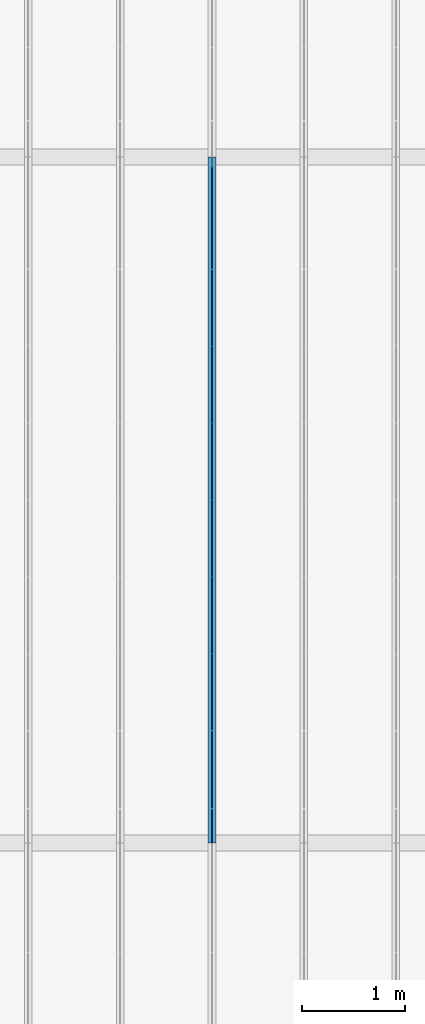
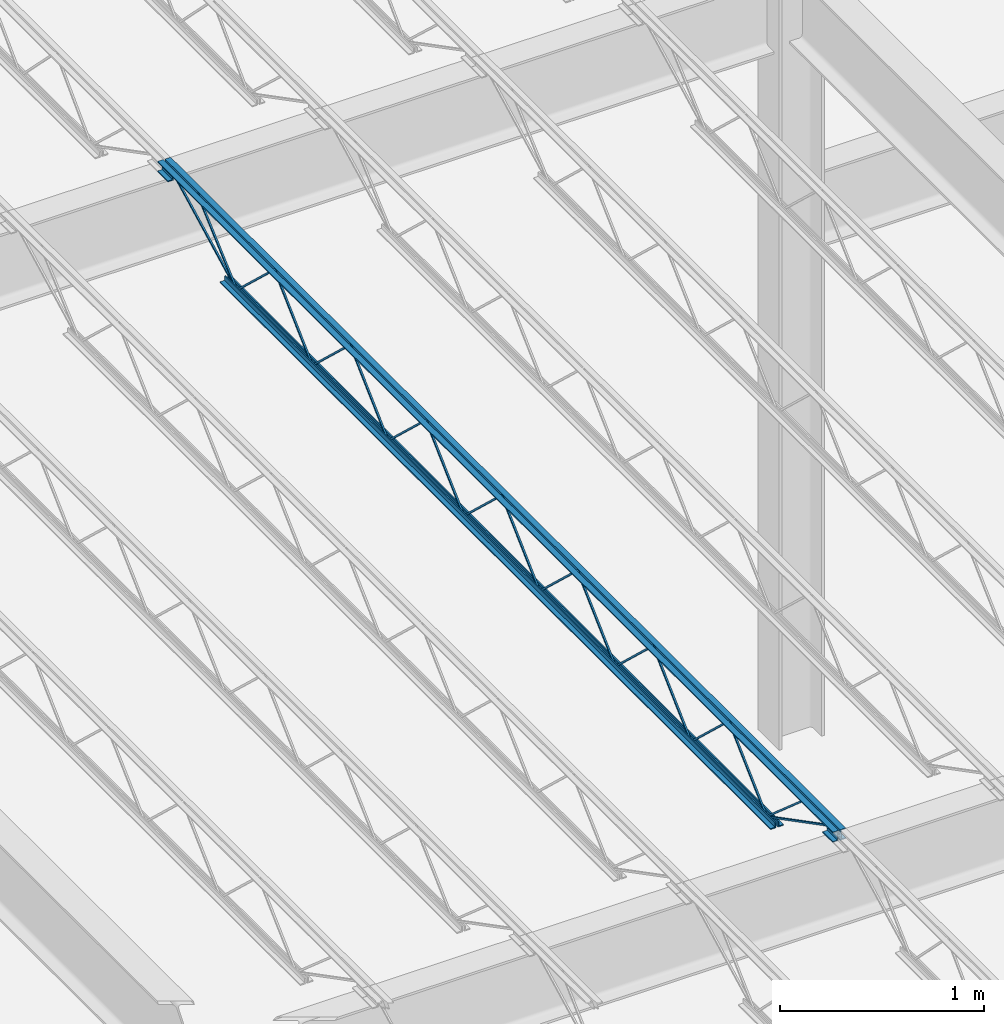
# One storey, part 51 of 119: 1 beam.
"""IFC2X3 building model written with IfcOpenShell, lengths in metres."""

from ifc_helpers import new_model, entity, si_unit, converted_unit, frame, origin, place, context, project, spatial, face_set, surface_model, element, save


model = new_model("IFC2X3")

# Units and contexts
model_context = context("Model", 3, precision=1e-09, world=origin())
plan_context = context("Plan", 3, precision=1e-09, world=origin())
ifc_project = project(units=[si_unit("LENGTHUNIT", "METRE"), si_unit("AREAUNIT", "SQUARE_METRE"), si_unit("VOLUMEUNIT", "CUBIC_METRE"), converted_unit("PLANEANGLEUNIT", "DEGREE", entity("IfcRatioMeasure", 0.01745329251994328), si_unit("PLANEANGLEUNIT", "RADIAN"), dimensions=[0, 0, 0, 0, 0, 0, 0]), si_unit("TIMEUNIT", "SECOND")], contexts=[model_context, plan_context])

# Site, building, storey
site_placement = place(None, origin())
site = spatial("IfcSite", under=ifc_project, at=site_placement, Name="Default", CompositionType="ELEMENT")
building_placement = place(site_placement, origin())
building = spatial("IfcBuilding", under=site, at=building_placement, CompositionType="ELEMENT")
storey_placement = place(building_placement, frame((0.0, 0.0, 4.570000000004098)))
storey = spatial("IfcBuildingStorey", under=building, at=storey_placement, Name="Second Floor", CompositionType="ELEMENT", Elevation=4.570000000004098)

# Beam
beam_placement = place(storey_placement, frame((-37.14175000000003, 28.38050000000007, 4.323999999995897)))
element("IfcBeam", 1, at=beam_placement, inside=storey, Name="M_K-Series Bar Joist-Rod Web:14K1:14K1", ObjectType="M_K-Series Bar Joist-Rod Web:14K1", context=model_context, shape_type="SurfaceModel", body=[
    surface_model("IfcFaceBasedSurfaceModel", [(0.04149999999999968, 4.429857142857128, 0.01110000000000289), (0.03200000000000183, 4.429857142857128, 0.01110000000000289), (0.03200000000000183, 4.429857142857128, 0.001600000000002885), (0.04149999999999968, 4.429857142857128, 0.001600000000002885), (0.03200000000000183, 4.431150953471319, 0.01110000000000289), (0.04149999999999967, 4.431150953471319, 0.01110000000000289), (0.03200000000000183, 4.434913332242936, 0.001600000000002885), (0.03200000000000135, 4.800349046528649, 0.3449000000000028), (0.03200000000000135, 4.802936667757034, 0.3449000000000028), (0.0320000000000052, 5.168372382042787, 0.001600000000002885), (0.03200000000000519, 5.173428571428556, 0.001600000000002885), (0.03200000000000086, 5.173428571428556, 0.01110000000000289), (0.03200000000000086, 5.172134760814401, 0.01110000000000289), (0.03200000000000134, 4.806699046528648, 0.3544000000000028), (0.03200000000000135, 4.796586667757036, 0.3544000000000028), (0.04149999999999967, 4.434913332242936, 0.001600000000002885), (0.04149999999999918, 4.800349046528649, 0.3449000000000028), (0.04149999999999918, 4.802936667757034, 0.3449000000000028), (0.04149999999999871, 5.168372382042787, 0.001600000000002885), (0.04149999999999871, 5.173428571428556, 0.001600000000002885), (0.04150000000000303, 5.173428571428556, 0.01110000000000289), (0.04150000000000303, 5.172134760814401, 0.01110000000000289), (0.04149999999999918, 4.806699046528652, 0.3544000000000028), (0.0414999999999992, 4.796586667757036, 0.3544000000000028), (0.04150000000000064, 3.686285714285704, 0.01110000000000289), (0.0320000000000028, 3.686285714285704, 0.01110000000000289), (0.0320000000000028, 3.686285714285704, 0.001600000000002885), (0.04150000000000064, 3.686285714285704, 0.001600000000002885), (0.0320000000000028, 3.687579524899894, 0.01110000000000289), (0.04150000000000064, 3.687579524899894, 0.01110000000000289), (0.0320000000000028, 3.691341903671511, 0.001600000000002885), (0.03200000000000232, 4.056777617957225, 0.3449000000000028), (0.03200000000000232, 4.059365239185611, 0.3449000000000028), (0.03200000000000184, 4.424800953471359, 0.001600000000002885), (0.03200000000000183, 4.429857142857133, 0.001600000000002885), (0.03200000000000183, 4.429857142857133, 0.01110000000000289), (0.03200000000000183, 4.428563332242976, 0.01110000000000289), (0.03200000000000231, 4.063127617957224, 0.3544000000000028), (0.03200000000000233, 4.053015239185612, 0.3544000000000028), (0.04150000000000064, 3.691341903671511, 0.001600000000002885), (0.04150000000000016, 4.056777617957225, 0.3449000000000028), (0.04150000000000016, 4.059365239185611, 0.3449000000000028), (0.04149999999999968, 4.424800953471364, 0.001600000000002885), (0.04149999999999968, 4.429857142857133, 0.001600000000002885), (0.04149999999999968, 4.429857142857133, 0.01110000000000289), (0.04149999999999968, 4.428563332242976, 0.01110000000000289), (0.04150000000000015, 4.063127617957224, 0.3544000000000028), (0.04150000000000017, 4.053015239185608, 0.3544000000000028), (0.04150000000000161, 2.942714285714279, 0.01110000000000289), (0.03200000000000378, 2.942714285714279, 0.01110000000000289), (0.03200000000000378, 2.942714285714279, 0.001600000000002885), (0.04150000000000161, 2.942714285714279, 0.001600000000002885), (0.03200000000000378, 2.94400809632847, 0.01110000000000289), (0.04150000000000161, 2.94400809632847, 0.01110000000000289), (0.03200000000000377, 2.947770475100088, 0.001600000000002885), (0.03200000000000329, 3.313206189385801, 0.3449000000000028), (0.03200000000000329, 3.315793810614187, 0.3449000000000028), (0.03200000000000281, 3.681229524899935, 0.001600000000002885), (0.0320000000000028, 3.686285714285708, 0.001600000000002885), (0.0320000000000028, 3.686285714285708, 0.01110000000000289), (0.0320000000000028, 3.684991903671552, 0.01110000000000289), (0.03200000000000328, 3.319556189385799, 0.3544000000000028), (0.0320000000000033, 3.309443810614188, 0.3544000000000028), (0.04150000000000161, 2.947770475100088, 0.001600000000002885), (0.04150000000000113, 3.313206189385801, 0.3449000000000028), (0.04150000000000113, 3.315793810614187, 0.3449000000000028), (0.04150000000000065, 3.681229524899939, 0.001600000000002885), (0.04150000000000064, 3.686285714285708, 0.001600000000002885), (0.04150000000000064, 3.686285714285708, 0.01110000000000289), (0.04150000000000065, 3.684991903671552, 0.01110000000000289), (0.04150000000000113, 3.319556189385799, 0.3544000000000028), (0.04150000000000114, 3.309443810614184, 0.3544000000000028), (0.04150000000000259, 2.199142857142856, 0.01110000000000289), (0.03200000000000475, 2.199142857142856, 0.01110000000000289), (0.03200000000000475, 2.199142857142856, 0.001600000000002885), (0.04150000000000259, 2.199142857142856, 0.001600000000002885), (0.03200000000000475, 2.200436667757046, 0.01110000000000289), (0.04150000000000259, 2.200436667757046, 0.01110000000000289), (0.03200000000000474, 2.204199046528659, 0.001600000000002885), (0.03200000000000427, 2.569634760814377, 0.3449000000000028), (0.03200000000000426, 2.572222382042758, 0.3449000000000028), (0.03200000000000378, 2.93765809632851, 0.001600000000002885), (0.03200000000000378, 2.942714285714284, 0.01110000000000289), (0.03200000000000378, 2.941420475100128, 0.01110000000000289), (0.03200000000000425, 2.575984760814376, 0.3544000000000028), (0.03200000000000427, 2.565872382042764, 0.3544000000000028), (0.04150000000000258, 2.204199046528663, 0.001600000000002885), (0.04150000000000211, 2.569634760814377, 0.3449000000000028), (0.0415000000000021, 2.572222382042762, 0.3449000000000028), (0.04150000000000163, 2.937658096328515, 0.001600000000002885), (0.04150000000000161, 2.942714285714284, 0.001600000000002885), (0.04150000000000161, 2.941420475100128, 0.01110000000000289), (0.0415000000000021, 2.575984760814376, 0.3544000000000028), (0.04150000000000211, 2.565872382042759, 0.3544000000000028), (0.04149999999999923, 1.455571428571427, 0.01110000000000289), (0.03200000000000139, 1.455571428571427, 0.01110000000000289), (0.03200000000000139, 1.455571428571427, 0.001600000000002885), (0.04149999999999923, 1.455571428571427, 0.001600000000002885), (0.03200000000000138, 1.456865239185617, 0.01110000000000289), (0.04149999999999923, 1.456865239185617, 0.01110000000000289), (0.03200000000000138, 1.460627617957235, 0.001600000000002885), (0.03200000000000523, 1.826063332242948, 0.3449000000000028), (0.03200000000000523, 1.828650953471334, 0.3449000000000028), (0.03200000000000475, 2.194086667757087, 0.001600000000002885), (0.03200000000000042, 2.199142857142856, 0.01110000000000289), (0.03200000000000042, 2.197849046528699, 0.01110000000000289), (0.0320000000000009, 1.832413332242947, 0.3544000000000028), (0.03200000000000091, 1.822300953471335, 0.3544000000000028), (0.04149999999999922, 1.460627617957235, 0.001600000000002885), (0.04149999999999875, 1.826063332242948, 0.3449000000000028), (0.04149999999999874, 1.828650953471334, 0.3449000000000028), (0.04149999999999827, 2.194086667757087, 0.001600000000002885), (0.04149999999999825, 2.199142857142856, 0.001600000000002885), (0.04150000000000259, 2.197849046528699, 0.01110000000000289), (0.04150000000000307, 1.832413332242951, 0.3544000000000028), (0.04150000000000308, 1.822300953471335, 0.3544000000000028), (0.04150000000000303, 5.173428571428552, 0.01109999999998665), (0.03200000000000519, 5.173428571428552, 0.01109999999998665), (0.03200000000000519, 5.173428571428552, 0.001599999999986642), (0.04150000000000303, 5.173428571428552, 0.001599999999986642), (0.03200000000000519, 5.174722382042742, 0.01109999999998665), (0.04150000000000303, 5.174722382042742, 0.01109999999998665), (0.03200000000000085, 5.17848476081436, 0.001599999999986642), (0.03200000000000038, 5.543920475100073, 0.3448999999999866), (0.03200000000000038, 5.546508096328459, 0.3448999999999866), (0.0319999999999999, 5.911943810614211, 0.001599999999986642), (0.03200000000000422, 5.91699999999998, 0.001599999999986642), (0.03199999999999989, 5.91699999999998, 0.01109999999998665), (0.03199999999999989, 5.915706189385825, 0.01109999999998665), (0.03200000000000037, 5.550270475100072, 0.3543999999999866), (0.03200000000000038, 5.540158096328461, 0.3543999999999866), (0.0414999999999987, 5.17848476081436, 0.001599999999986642), (0.04150000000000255, 5.543920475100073, 0.3448999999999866), (0.04150000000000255, 5.546508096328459, 0.3448999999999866), (0.04150000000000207, 5.911943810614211, 0.001599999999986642), (0.04150000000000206, 5.91699999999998, 0.001599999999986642), (0.04150000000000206, 5.91699999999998, 0.01109999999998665), (0.04150000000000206, 5.915706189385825, 0.01109999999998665), (0.04150000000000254, 5.550270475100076, 0.3543999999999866), (0.04150000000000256, 5.540158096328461, 0.3543999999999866), (0.0415000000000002, 0.7120000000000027, 0.01110000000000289), (0.03200000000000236, 0.7120000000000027, 0.01110000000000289), (0.03200000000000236, 0.7120000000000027, 0.001600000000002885), (0.0415000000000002, 0.7120000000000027, 0.001600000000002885), (0.03200000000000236, 0.7132938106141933, 0.01110000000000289), (0.0415000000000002, 0.7132938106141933, 0.01110000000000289), (0.03200000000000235, 0.7170561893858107, 0.001600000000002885), (0.03200000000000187, 1.082491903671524, 0.3449000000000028), (0.03200000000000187, 1.08507952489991, 0.3449000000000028), (0.0320000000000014, 1.450515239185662, 0.001600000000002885), (0.03200000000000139, 1.455571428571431, 0.001600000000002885), (0.03200000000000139, 1.455571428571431, 0.01110000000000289), (0.03200000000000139, 1.454277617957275, 0.01110000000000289), (0.03200000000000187, 1.088841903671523, 0.3544000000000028), (0.03200000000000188, 1.078729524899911, 0.3544000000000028), (0.0415000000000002, 0.7170561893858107, 0.001600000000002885), (0.04149999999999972, 1.082491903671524, 0.3449000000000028), (0.04149999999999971, 1.08507952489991, 0.3449000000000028), (0.04149999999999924, 1.450515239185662, 0.001600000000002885), (0.04149999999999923, 1.455571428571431, 0.001600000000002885), (0.04149999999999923, 1.455571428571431, 0.01110000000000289), (0.04149999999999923, 1.454277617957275, 0.01110000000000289), (0.04149999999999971, 1.088841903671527, 0.3544000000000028), (0.04149999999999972, 1.078729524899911, 0.3544000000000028), (0.03200000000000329, 6.629, 0.3559999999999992), (0.0, 6.629, 0.3559999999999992), (0.0, 6.629, 0.3494999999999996), (0.02550000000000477, 6.629, 0.3494999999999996), (0.02550000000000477, 6.629, 0.3239999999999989), (0.03200000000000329, 6.629, 0.3239999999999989), (0.04150000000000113, 6.629, 0.3559999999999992), (0.04150000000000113, 6.629, 0.3239999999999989), (0.04800000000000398, 6.629, 0.3239999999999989), (0.04800000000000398, 6.629, 0.3494999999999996), (0.07350000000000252, 6.629, 0.3494999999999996), (0.07350000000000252, 6.629, 0.3559999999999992), (0.03200000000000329, 0.0, 0.3559999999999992), (0.0, 0.0, 0.3559999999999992), (0.0, 0.0, 0.3494999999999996), (0.02550000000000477, 0.0, 0.3494999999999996), (0.02550000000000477, 0.0, 0.3239999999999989), (0.03200000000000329, 0.0, 0.3239999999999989), (0.04150000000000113, 0.0, 0.3559999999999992), (0.04150000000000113, 0.0, 0.3239999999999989), (0.04800000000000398, 0.0, 0.3239999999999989), (0.04800000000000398, 0.0, 0.3494999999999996), (0.07350000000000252, 0.0, 0.3494999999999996), (0.07350000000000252, 0.0, 0.3559999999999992), (0.04150000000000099, 0.09999999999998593, 0.2924999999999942), (0.07350000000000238, 0.09999999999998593, 0.2924999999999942), (0.07350000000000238, 0.09999999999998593, 0.2989999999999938), (0.04799999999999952, 0.09999999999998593, 0.2989999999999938), (0.04799999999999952, 0.09999999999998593, 0.3239999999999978), (0.04150000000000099, 0.09999999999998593, 0.3239999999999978), (0.0, 0.09999999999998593, 0.2924999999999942), (0.03200000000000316, 0.09999999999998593, 0.2924999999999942), (0.03200000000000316, 0.09999999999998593, 0.3239999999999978), (0.02550000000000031, 0.09999999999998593, 0.3239999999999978), (0.02550000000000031, 0.09999999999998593, 0.2989999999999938), (0.0, 0.09999999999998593, 0.2989999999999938), (0.04150000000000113, 0.0, 0.2924999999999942), (0.07350000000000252, 0.0, 0.2924999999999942), (0.07350000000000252, 0.0, 0.2989999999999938), (0.04799999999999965, 0.0, 0.2989999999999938), (0.04799999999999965, 0.0, 0.3239999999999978), (0.04150000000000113, 0.0, 0.3239999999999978), (0.0, 0.0, 0.2924999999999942), (0.03200000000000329, 0.0, 0.2924999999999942), (0.03200000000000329, 0.0, 0.3239999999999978), (0.02550000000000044, 0.0, 0.3239999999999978), (0.02550000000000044, 0.0, 0.2989999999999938), (0.0, 0.0, 0.2989999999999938), (0.03200000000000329, 6.629, 0.2924999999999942), (0.03200000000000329, 6.629, 0.3239999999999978), (0.02550000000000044, 6.629, 0.3239999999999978), (0.02550000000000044, 6.629, 0.2989999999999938), (0.0, 6.629, 0.2989999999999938), (0.0, 6.629, 0.2924999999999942), (0.04150000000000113, 6.629, 0.2924999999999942), (0.07350000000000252, 6.629, 0.2924999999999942), (0.07350000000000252, 6.629, 0.2989999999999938), (0.04799999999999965, 6.629, 0.2989999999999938), (0.04799999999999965, 6.629, 0.3239999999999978), (0.04150000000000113, 6.629, 0.3239999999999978), (0.03200000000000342, 6.529000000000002, 0.2924999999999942), (0.03200000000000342, 6.529000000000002, 0.3239999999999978), (0.02550000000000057, 6.529000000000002, 0.3239999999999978), (0.02550000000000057, 6.529000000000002, 0.2989999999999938), (0.0, 6.529000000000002, 0.2989999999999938), (0.0, 6.529000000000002, 0.2924999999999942), (0.04150000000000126, 6.529000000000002, 0.2924999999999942), (0.07350000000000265, 6.529000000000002, 0.2924999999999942), (0.07350000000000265, 6.529000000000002, 0.2989999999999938), (0.04799999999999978, 6.529000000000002, 0.2989999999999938), (0.04799999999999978, 6.529000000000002, 0.3239999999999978), (0.04150000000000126, 6.529000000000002, 0.3239999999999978), (0.0320000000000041, 6.017000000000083, 0.0), (0.0320000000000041, 6.017000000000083, 0.03199999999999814), (0.02550000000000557, 6.017000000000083, 0.03199999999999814), (0.02550000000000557, 6.017000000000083, 0.006499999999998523), (0.0, 6.017000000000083, 0.006499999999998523), (0.0, 6.017000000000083, 0.0), (0.04150000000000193, 6.017000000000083, 0.0), (0.07350000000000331, 6.017000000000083, 0.0), (0.07350000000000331, 6.017000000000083, 0.006499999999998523), (0.04800000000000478, 6.017000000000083, 0.006499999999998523), (0.04800000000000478, 6.017000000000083, 0.03199999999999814), (0.04150000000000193, 6.017000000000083, 0.03199999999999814), (0.03200000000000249, 0.6120000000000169, 0.0), (0.03200000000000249, 0.6120000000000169, 0.03199999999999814), (0.02550000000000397, 0.6120000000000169, 0.03199999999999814), (0.02550000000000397, 0.6120000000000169, 0.006499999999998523), (0.0, 0.6120000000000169, 0.006499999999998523), (0.0, 0.6120000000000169, 0.0), (0.04150000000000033, 0.6120000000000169, 0.0), (0.07350000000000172, 0.6120000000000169, 0.0), (0.07350000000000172, 0.6120000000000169, 0.006499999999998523), (0.04800000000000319, 0.6120000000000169, 0.006499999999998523), (0.04800000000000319, 0.6120000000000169, 0.03199999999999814), (0.04150000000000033, 0.6120000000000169, 0.03199999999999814), (0.0415000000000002, 0.7141882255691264, 0.01056594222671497), (0.03200000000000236, 0.7141882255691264, 0.01056594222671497), (0.03200000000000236, 0.7098117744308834, 0.002134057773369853), (0.0415000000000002, 0.7098117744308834, 0.002134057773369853), (0.04150000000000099, 0.1011592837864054, 0.3287499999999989), (0.04150000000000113, 0.0, 0.3287499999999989), (0.04150000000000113, 0.0, 0.3192499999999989), (0.04150000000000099, 0.09884071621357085, 0.3192499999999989), (0.03199999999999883, 0.09884071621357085, 0.3192499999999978), (0.03200000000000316, 0.1011592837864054, 0.3287499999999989), (0.03200000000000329, 0.0, 0.3287499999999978), (0.03200000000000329, 0.0, 0.3192499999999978), (0.04150000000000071, 0.3202571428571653, 0.3417000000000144), (0.03200000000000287, 0.3202571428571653, 0.3417000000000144), (0.03200000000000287, 0.3202571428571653, 0.3322000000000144), (0.04150000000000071, 0.3202571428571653, 0.3322000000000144), (0.03200000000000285, 0.3347375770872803, 0.3417000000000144), (0.04150000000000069, 0.3347375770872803, 0.3417000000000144), (0.03200000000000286, 0.331176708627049, 0.3322000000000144), (0.03200000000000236, 0.7088777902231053, 0.002770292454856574), (0.03200000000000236, 0.7151222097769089, 0.00992970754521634), (0.04150000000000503, 0.331176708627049, 0.3322000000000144), (0.0415000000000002, 0.7088777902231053, 0.002770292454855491), (0.0415000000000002, 0.7151222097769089, 0.00992970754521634), (0.04150000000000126, 6.531188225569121, 0.3197840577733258), (0.04150000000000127, 6.526811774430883, 0.328215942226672), (0.03200000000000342, 6.526811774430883, 0.328215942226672), (0.03200000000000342, 6.531188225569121, 0.3197840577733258), (0.04150000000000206, 5.919188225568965, 0.002134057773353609), (0.04150000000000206, 5.914811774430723, 0.01056594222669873), (0.03200000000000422, 5.914811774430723, 0.01056594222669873), (0.03200000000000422, 5.919188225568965, 0.002134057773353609), (0.04150000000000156, 6.306455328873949, 0.3460994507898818), (0.04150000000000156, 6.300144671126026, 0.3532005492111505), (0.03200000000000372, 6.300144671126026, 0.3532005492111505), (0.03200000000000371, 6.306455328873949, 0.3460994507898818), (0.04150000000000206, 5.920155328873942, 0.002799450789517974), (0.04150000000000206, 5.913844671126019, 0.009900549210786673), (0.03200000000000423, 5.913844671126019, 0.009900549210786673), (0.03200000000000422, 5.920155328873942, 0.002799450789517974)], [face_set([[[0, 1, 2, 3]], [[1, 4, 5, 0]], [[2, 6, 7, 8, 9, 10, 11, 12, 13, 14, 4, 1]], [[3, 2, 6, 15]], [[0, 3, 15, 16, 17, 18, 19, 20, 21, 22, 23, 5]], [[4, 5, 23, 14]], [[15, 16, 7, 6]], [[14, 13, 22, 23]], [[16, 7, 8, 17]], [[13, 12, 21, 22]], [[17, 8, 9, 18]], [[20, 11, 10, 19]], [[12, 11, 20, 21]], [[18, 9, 10, 19]]]), face_set([[[24, 25, 26, 27]], [[25, 28, 29, 24]], [[26, 30, 31, 32, 33, 34, 35, 36, 37, 38, 28, 25]], [[27, 26, 30, 39]], [[24, 27, 39, 40, 41, 42, 43, 44, 45, 46, 47, 29]], [[28, 29, 47, 38]], [[39, 40, 31, 30]], [[38, 37, 46, 47]], [[40, 31, 32, 41]], [[37, 36, 45, 46]], [[41, 32, 33, 42]], [[44, 35, 34, 43]], [[36, 35, 44, 45]], [[42, 33, 34, 43]]]), face_set([[[48, 49, 50, 51]], [[49, 52, 53, 48]], [[50, 54, 55, 56, 57, 58, 59, 60, 61, 62, 52, 49]], [[51, 50, 54, 63]], [[48, 51, 63, 64, 65, 66, 67, 68, 69, 70, 71, 53]], [[52, 53, 71, 62]], [[63, 64, 55, 54]], [[62, 61, 70, 71]], [[64, 55, 56, 65]], [[61, 60, 69, 70]], [[65, 56, 57, 66]], [[68, 59, 58, 67]], [[60, 59, 68, 69]], [[66, 57, 58, 67]]]), face_set([[[72, 73, 74, 75]], [[73, 76, 77, 72]], [[74, 78, 79, 80, 81, 50, 82, 83, 84, 85, 76, 73]], [[75, 74, 78, 86]], [[72, 75, 86, 87, 88, 89, 90, 48, 91, 92, 93, 77]], [[76, 77, 93, 85]], [[86, 87, 79, 78]], [[85, 84, 92, 93]], [[87, 79, 80, 88]], [[84, 83, 91, 92]], [[88, 80, 81, 89]], [[48, 82, 50, 90]], [[83, 82, 48, 91]], [[89, 81, 50, 90]]]), face_set([[[94, 95, 96, 97]], [[95, 98, 99, 94]], [[96, 100, 101, 102, 103, 74, 104, 105, 106, 107, 98, 95]], [[97, 96, 100, 108]], [[94, 97, 108, 109, 110, 111, 112, 72, 113, 114, 115, 99]], [[98, 99, 115, 107]], [[108, 109, 101, 100]], [[107, 106, 114, 115]], [[109, 101, 102, 110]], [[106, 105, 113, 114]], [[110, 102, 103, 111]], [[72, 104, 74, 112]], [[105, 104, 72, 113]], [[111, 103, 74, 112]]]), face_set([[[116, 117, 118, 119]], [[117, 120, 121, 116]], [[118, 122, 123, 124, 125, 126, 127, 128, 129, 130, 120, 117]], [[119, 118, 122, 131]], [[116, 119, 131, 132, 133, 134, 135, 136, 137, 138, 139, 121]], [[120, 121, 139, 130]], [[131, 132, 123, 122]], [[130, 129, 138, 139]], [[132, 123, 124, 133]], [[129, 128, 137, 138]], [[133, 124, 125, 134]], [[136, 127, 126, 135]], [[128, 127, 136, 137]], [[134, 125, 126, 135]]]), face_set([[[140, 141, 142, 143]], [[141, 144, 145, 140]], [[142, 146, 147, 148, 149, 150, 151, 152, 153, 154, 144, 141]], [[143, 142, 146, 155]], [[140, 143, 155, 156, 157, 158, 159, 160, 161, 162, 163, 145]], [[144, 145, 163, 154]], [[155, 156, 147, 146]], [[154, 153, 162, 163]], [[156, 147, 148, 157]], [[153, 152, 161, 162]], [[157, 148, 149, 158]], [[160, 151, 150, 159]], [[152, 151, 160, 161]], [[158, 149, 150, 159]]]), face_set([[[164, 165, 166, 167, 168, 169]], [[170, 171, 172, 173, 174, 175]], [[176, 177, 178, 179, 180, 181]], [[182, 183, 184, 185, 186, 187]], [[169, 164, 176, 181]], [[168, 169, 181, 180]], [[167, 179, 180, 168]], [[166, 167, 179, 178]], [[165, 177, 178, 166]], [[164, 176, 177, 165]], [[175, 187, 182, 170]], [[174, 175, 187, 186]], [[173, 174, 186, 185]], [[172, 173, 185, 184]], [[171, 172, 184, 183]], [[170, 182, 183, 171]]]), face_set([[[188, 189, 190, 191, 192, 193]], [[194, 195, 196, 197, 198, 199]], [[200, 201, 202, 203, 204, 205]], [[206, 207, 208, 209, 210, 211]], [[193, 205, 200, 188]], [[192, 204, 205, 193]], [[191, 192, 204, 203]], [[190, 202, 203, 191]], [[189, 190, 202, 201]], [[188, 189, 201, 200]], [[199, 211, 206, 194]], [[198, 210, 211, 199]], [[197, 209, 210, 198]], [[196, 208, 209, 197]], [[195, 196, 208, 207]], [[194, 195, 207, 206]]]), face_set([[[212, 213, 214, 215, 216, 217]], [[218, 219, 220, 221, 222, 223]], [[224, 225, 226, 227, 228, 229]], [[230, 231, 232, 233, 234, 235]], [[217, 212, 224, 229]], [[216, 228, 229, 217]], [[215, 227, 228, 216]], [[214, 226, 227, 215]], [[213, 225, 226, 214]], [[212, 213, 225, 224]], [[223, 235, 230, 218]], [[222, 234, 235, 223]], [[221, 222, 234, 233]], [[220, 232, 233, 221]], [[219, 220, 232, 231]], [[218, 219, 231, 230]]]), face_set([[[236, 237, 238, 239, 240, 241]], [[242, 243, 244, 245, 246, 247]], [[248, 249, 250, 251, 252, 253]], [[254, 255, 256, 257, 258, 259]], [[241, 236, 248, 253]], [[240, 252, 253, 241]], [[239, 251, 252, 240]], [[238, 250, 251, 239]], [[237, 249, 250, 238]], [[236, 237, 249, 248]], [[247, 259, 254, 242]], [[246, 258, 259, 247]], [[245, 246, 258, 257]], [[244, 256, 257, 245]], [[243, 244, 256, 255]], [[242, 243, 255, 254]]]), face_set([[[260, 261, 262, 263]], [[263, 260, 264, 265, 266, 267]], [[262, 263, 267, 268]], [[261, 269, 270, 271, 268, 262]], [[260, 264, 269, 261]], [[265, 270, 271, 266]], [[268, 267, 266, 271]], [[264, 265, 270, 269]]]), face_set([[[272, 273, 274, 275]], [[273, 276, 277, 272]], [[274, 278, 279, 280, 276, 273]], [[275, 274, 278, 281]], [[272, 275, 281, 282, 283, 277]], [[283, 280, 279, 282]], [[276, 280, 283, 277]], [[281, 278, 279, 282]]]), face_set([[[284, 285, 286, 287]], [[288, 289, 290, 291]], [[287, 291, 288, 284]], [[286, 290, 291, 287]], [[285, 286, 290, 289]], [[284, 285, 289, 288]]]), face_set([[[292, 293, 294, 295]], [[296, 297, 298, 299]], [[295, 299, 296, 292]], [[294, 298, 299, 295]], [[293, 294, 298, 297]], [[292, 293, 297, 296]]])]),
])

save(model, "model.ifc")
